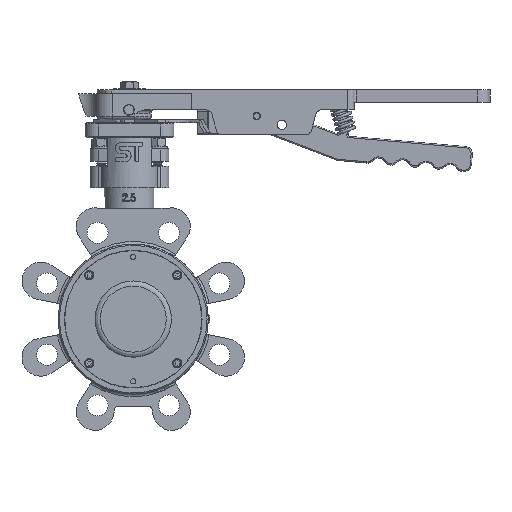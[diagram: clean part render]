
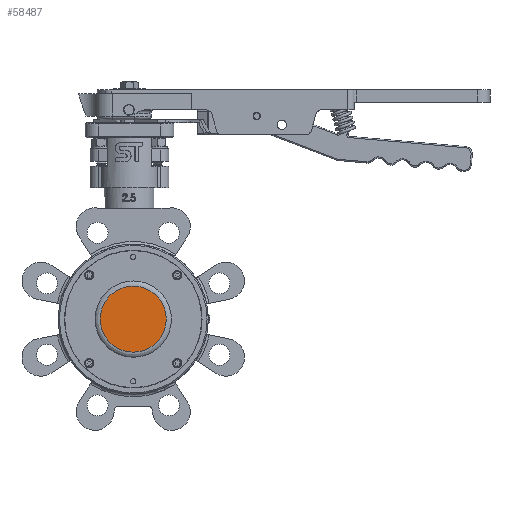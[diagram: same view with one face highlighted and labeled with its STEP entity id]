
A CAD part, front view. The second image highlights one B-rep face of the part: STEP entity #58487.
In plain terms, the highlighted planar face has unit normal (0, -1, 0).
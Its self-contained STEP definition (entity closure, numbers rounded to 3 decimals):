
#58383 = TOROIDAL_SURFACE('',#58384,1.04,0.197);
#58384 = AXIS2_PLACEMENT_3D('',#58385,#58386,#58387);
#58385 = CARTESIAN_POINT('',(271.093,-9.649,176.078)
  );
#58386 = DIRECTION('',(0.,1.,0.));
#58387 = DIRECTION('',(1.,0.,0.));
#58487 = ADVANCED_FACE('',(#58488),#58501,.F.);
#58488 = FACE_BOUND('',#58489,.T.);
#58489 = EDGE_LOOP('',(#58490));
#58490 = ORIENTED_EDGE('',*,*,#58491,.F.);
#58491 = EDGE_CURVE('',#58492,#58492,#58494,.T.);
#58492 = VERTEX_POINT('',#58493);
#58493 = CARTESIAN_POINT('',(272.133,-9.846,176.078)
  );
#58494 = SURFACE_CURVE('',#58495,(#58500,#58512),.PCURVE_S1.);
#58495 = CIRCLE('',#58496,1.04);
#58496 = AXIS2_PLACEMENT_3D('',#58497,#58498,#58499);
#58497 = CARTESIAN_POINT('',(271.093,-9.846,176.078)
  );
#58498 = DIRECTION('',(0.,1.,0.));
#58499 = DIRECTION('',(1.,0.,0.));
#58500 = PCURVE('',#58501,#58506);
#58501 = PLANE('',#58502);
#58502 = AXIS2_PLACEMENT_3D('',#58503,#58504,#58505);
#58503 = CARTESIAN_POINT('',(271.093,-9.846,
    177.226));
#58504 = DIRECTION('',(0.,1.,0.));
#58505 = DIRECTION('',(1.,0.,0.));
#58506 = DEFINITIONAL_REPRESENTATION('',(#58507),#58511);
#58507 = CIRCLE('',#58508,1.04);
#58508 = AXIS2_PLACEMENT_2D('',#58509,#58510);
#58509 = CARTESIAN_POINT('',(0.,1.148));
#58510 = DIRECTION('',(1.,0.));
#58511 = ( GEOMETRIC_REPRESENTATION_CONTEXT(2) 
PARAMETRIC_REPRESENTATION_CONTEXT() REPRESENTATION_CONTEXT('2D SPACE',''
  ) );
#58512 = PCURVE('',#58383,#58513);
#58513 = DEFINITIONAL_REPRESENTATION('',(#58514),#58518);
#58514 = LINE('',#58515,#58516);
#58515 = CARTESIAN_POINT('',(0.,4.712));
#58516 = VECTOR('',#58517,1.);
#58517 = DIRECTION('',(1.,0.));
#58518 = ( GEOMETRIC_REPRESENTATION_CONTEXT(2) 
PARAMETRIC_REPRESENTATION_CONTEXT() REPRESENTATION_CONTEXT('2D SPACE',''
  ) );
